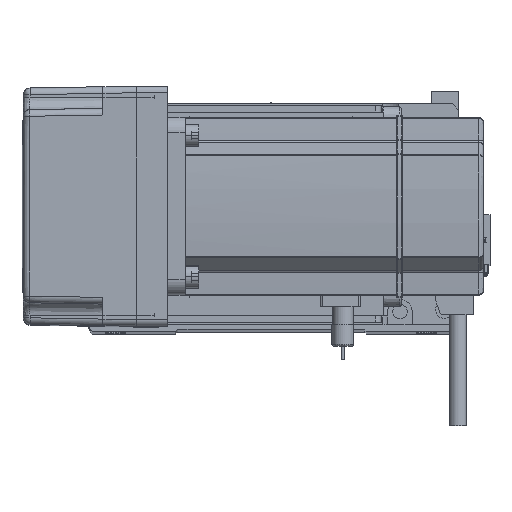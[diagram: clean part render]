
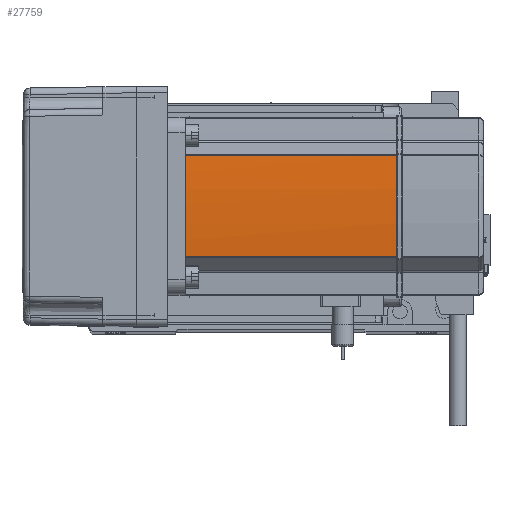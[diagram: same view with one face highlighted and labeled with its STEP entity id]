
A CAD part, top view. The second image highlights one B-rep face of the part: STEP entity #27759.
In plain terms, the highlighted cylindrical face has radius 270 mm (diameter 540 mm), a partial arc.
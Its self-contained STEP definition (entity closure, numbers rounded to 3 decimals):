
#1476 = CARTESIAN_POINT ( 'NONE',  ( 40., 0.127, 134. ) ) ;
#1789 = CIRCLE ( 'NONE', #28084, 270. ) ;
#2417 = CARTESIAN_POINT ( 'NONE',  ( -230., 0., 134. ) ) ;
#4192 = ORIENTED_EDGE ( 'NONE', *, *, #31140, .T. ) ;
#5589 = CARTESIAN_POINT ( 'NONE',  ( 39.042, 22.724, 39. ) ) ;
#5879 = VERTEX_POINT ( 'NONE', #52354 ) ;
#5947 = DIRECTION ( 'NONE',  ( 0., 0., -1. ) ) ;
#6547 = VERTEX_POINT ( 'NONE', #32992 ) ;
#9629 = VECTOR ( 'NONE', #32197, 1000. ) ;
#11171 = ORIENTED_EDGE ( 'NONE', *, *, #49911, .T. ) ;
#11407 = DIRECTION ( 'NONE',  ( 0., 0., 1. ) ) ;
#11468 = DIRECTION ( 'NONE',  ( 0., 0., -1. ) ) ;
#12840 = CARTESIAN_POINT ( 'NONE',  ( 40., 0.042, 134. ) ) ;
#14029 = CARTESIAN_POINT ( 'NONE',  ( 40., -0.127, 134. ) ) ;
#14387 = VERTEX_POINT ( 'NONE', #1476 ) ;
#15240 = CIRCLE ( 'NONE', #36982, 270. ) ;
#15884 = DIRECTION ( 'NONE',  ( -1., 0., 0. ) ) ;
#16277 = VERTEX_POINT ( 'NONE', #40157 ) ;
#18745 = CARTESIAN_POINT ( 'NONE',  ( -230., 0., 39. ) ) ;
#23840 = CARTESIAN_POINT ( 'NONE',  ( 39.042, 22.724, 58. ) ) ;
#25436 = VERTEX_POINT ( 'NONE', #14029 ) ;
#25628 = EDGE_CURVE ( 'NONE', #25436, #14387, #47678, .T. ) ;
#25641 = CARTESIAN_POINT ( 'NONE',  ( 40., -0.127, 134. ) ) ;
#26067 = CARTESIAN_POINT ( 'NONE',  ( -230., 0., 134. ) ) ;
#27537 = VERTEX_POINT ( 'NONE', #5589 ) ;
#27759 = ADVANCED_FACE ( 'NONE', ( #43758 ), #36978, .T. ) ;
#28084 = AXIS2_PLACEMENT_3D ( 'NONE', #2417, #29160, #37268 ) ;
#28202 = CARTESIAN_POINT ( 'NONE',  ( 39.042, -22.724, 58. ) ) ;
#28539 = ORIENTED_EDGE ( 'NONE', *, *, #32712, .T. ) ;
#29160 = DIRECTION ( 'NONE',  ( 0., 0., -1. ) ) ;
#30459 = ORIENTED_EDGE ( 'NONE', *, *, #54271, .F. ) ;
#31140 = EDGE_CURVE ( 'NONE', #25436, #16277, #1789, .T. ) ;
#31370 = EDGE_LOOP ( 'NONE', ( #28539, #30459, #34904, #11171, #37417, #4192 ) ) ;
#32149 = AXIS2_PLACEMENT_3D ( 'NONE', #18745, #5947, #53534 ) ;
#32197 = DIRECTION ( 'NONE',  ( 0., 0., -1. ) ) ;
#32712 = EDGE_CURVE ( 'NONE', #16277, #5879, #38217, .T. ) ;
#32992 = CARTESIAN_POINT ( 'NONE',  ( 39.042, 22.724, 134. ) ) ;
#34371 = CARTESIAN_POINT ( 'NONE',  ( 40., 0.127, 134. ) ) ;
#34515 = LINE ( 'NONE', #23840, #39272 ) ;
#34904 = ORIENTED_EDGE ( 'NONE', *, *, #47429, .T. ) ;
#36978 = CYLINDRICAL_SURFACE ( 'NONE', #37345, 270. ) ;
#36982 = AXIS2_PLACEMENT_3D ( 'NONE', #26067, #47851, #39309 ) ;
#37268 = DIRECTION ( 'NONE',  ( -1., 0., 0. ) ) ;
#37345 = AXIS2_PLACEMENT_3D ( 'NONE', #37532, #11468, #15884 ) ;
#37417 = ORIENTED_EDGE ( 'NONE', *, *, #25628, .F. ) ;
#37532 = CARTESIAN_POINT ( 'NONE',  ( -230., 0., 58. ) ) ;
#38217 = LINE ( 'NONE', #28202, #9629 ) ;
#39272 = VECTOR ( 'NONE', #11407, 1000. ) ;
#39309 = DIRECTION ( 'NONE',  ( -1., 0., 0. ) ) ;
#40157 = CARTESIAN_POINT ( 'NONE',  ( 39.042, -22.724, 134. ) ) ;
#41767 = CARTESIAN_POINT ( 'NONE',  ( 40., -0.042, 134. ) ) ;
#41768 = CIRCLE ( 'NONE', #32149, 270. ) ;
#43758 = FACE_OUTER_BOUND ( 'NONE', #31370, .T. ) ;
#47429 = EDGE_CURVE ( 'NONE', #27537, #6547, #34515, .T. ) ;
#47678 = B_SPLINE_CURVE_WITH_KNOTS ( 'NONE', 3,
 ( #25641, #41767, #12840, #34371 ),
 .UNSPECIFIED., .F., .F.,
 ( 4, 4 ),
 ( 0., 1. ),
 .UNSPECIFIED. ) ;
#47851 = DIRECTION ( 'NONE',  ( 0., 0., -1. ) ) ;
#49911 = EDGE_CURVE ( 'NONE', #6547, #14387, #15240, .T. ) ;
#52354 = CARTESIAN_POINT ( 'NONE',  ( 39.042, -22.724, 39. ) ) ;
#53534 = DIRECTION ( 'NONE',  ( -1., 0., 0. ) ) ;
#54271 = EDGE_CURVE ( 'NONE', #27537, #5879, #41768, .T. ) ;
